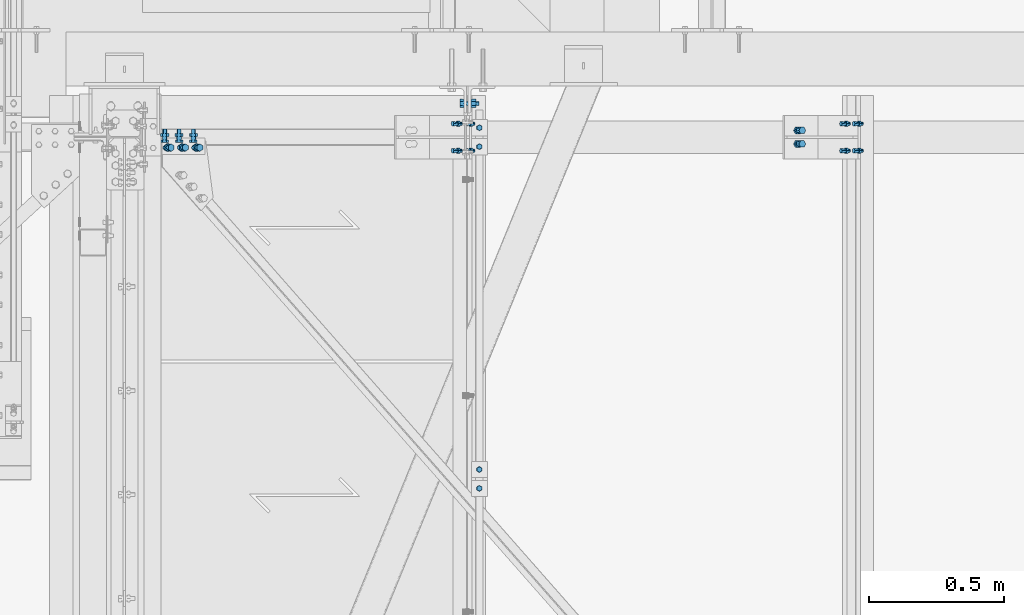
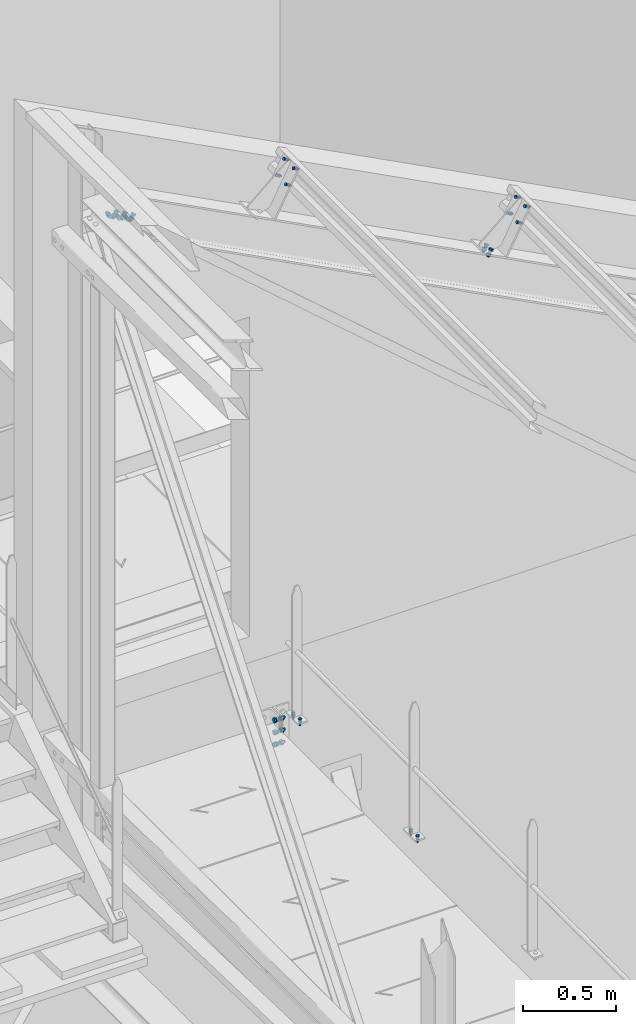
# One storey, part 158 of 362: 8 mechanical fasteners.
"""IFC2X3 building model written with IfcOpenShell, lengths in millimetres."""

from ifc_helpers import new_model, si_unit, frame, frame_2d, origin_with_axes, origin_2d_with_axis, place, context, subcontext, project, spatial, polyline, circle_curve, parameter, trimmed, segment, composite_curve, circle, outline, extrude, source, transform, mapped, material, type_object, element, save


model = new_model("IFC2X3")

# Units and contexts
model_context = context("Model", 3, precision=1e-05, world=origin_with_axes())
body_context = subcontext(model_context, "Body", "Model", "MODEL_VIEW")
ifc_project = project(units=[si_unit("LENGTHUNIT", "METRE", prefix="MILLI"), si_unit("AREAUNIT", "SQUARE_METRE"), si_unit("VOLUMEUNIT", "CUBIC_METRE"), si_unit("MASSUNIT", "GRAM", prefix="KILO"), si_unit("TIMEUNIT", "SECOND"), si_unit("PLANEANGLEUNIT", "RADIAN"), si_unit("SOLIDANGLEUNIT", "STERADIAN"), si_unit("THERMODYNAMICTEMPERATUREUNIT", "DEGREE_CELSIUS"), si_unit("LUMINOUSINTENSITYUNIT", "LUMEN")], contexts=[model_context])

# Site, building, storey
site_placement = place(None, origin_with_axes())
site = spatial("IfcSite", under=ifc_project, at=site_placement, Name="Undefined", CompositionType="ELEMENT")
building_placement = place(site_placement, origin_with_axes())
building = spatial("IfcBuilding", under=site, at=building_placement, Name="Undefined", CompositionType="ELEMENT")
storey_placement = place(building_placement, origin_with_axes())
storey = spatial("IfcBuildingStorey", under=building, at=storey_placement, Name="Undefined", CompositionType="ELEMENT", Elevation=0.0)

# Mechanical fasteners
ifc_material_1 = material(Name="#_SB-8.8-ZINGUE")
mechanical_fastener_type = type_object("IfcMechanicalFastenerType", Name="Bolt assembly")
shared_shape_1 = source(origin_with_axes(), body_context, "Body", "SweptSolid", [
    extrude(circle(Radius=9.0, at=origin_2d_with_axis()), frame((0.0, 0.1, 0.0), z_axis=(0.0, 1.0, 0.0), x_axis=(1.0, 0.0, 0.0)), (0.0, 0.0, 1.0), 6.0),
    extrude(circle(Radius=9.0, at=origin_2d_with_axis()), frame((0.0, 5.90002706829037, 0.0), z_axis=(0.0, 1.0, 0.0), x_axis=(1.0, 0.0, 0.0)), (0.0, 0.0, 1.0), 6.1),
    extrude(outline(polyline([(13.85640646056, 0.0), (6.92820323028, 12.0000000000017), (-6.92820323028, 12.0000000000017), (-13.85640646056, 0.0), (-6.92820323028, -12.0000000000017), (6.92820323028, -12.0000000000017), (13.85640646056, 0.0)])), frame((0.0, -10.5600019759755, 0.0), z_axis=(0.0, 1.0, 0.0), x_axis=(1.0, 0.0, 0.0)), (0.0, 0.0, 1.0), 10.56),
    extrude(circle(Radius=8.0, at=origin_2d_with_axis()), frame((0.0, 0.0, 0.0), z_axis=(0.0, 1.0, 0.0), x_axis=(1.0, 0.0, 0.0)), (0.0, 0.0, 1.0), 40.0),
    extrude(outline(polyline([(15.3344231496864, 0.0), (7.6672115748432, 13.2800000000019), (-7.6672115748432, 13.2800000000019), (-15.3344231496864, 0.0), (-7.6672115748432, -13.2800000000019), (7.6672115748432, -13.2800000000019), (15.3344231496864, 0.0)])), frame((0.0, 12.0000270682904, 0.0), z_axis=(0.0, 1.0, 0.0), x_axis=(1.0, 0.0, 0.0)), (0.0, 0.0, 1.0), 10.56),
])
mechanical_fastener_1_placement = place(storey_placement, frame((12901.5227165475, 15161.5001062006, 11955.3075528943), z_axis=(-0.886082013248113, 9.38091927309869e-07, 0.463528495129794), x_axis=(0.0, 1.0, 0.0)))
element("IfcMechanicalFastener", 1, at=mechanical_fastener_1_placement, inside=storey, type_object=mechanical_fastener_type, material=ifc_material_1, Name="Bolt assembly", NominalDiameter=16.0, NominalLength=40.0, context=body_context, shape_type="MappedRepresentation", body=[
    mapped(shared_shape_1, transform((0.0, 0.0, -60.0))),
    mapped(shared_shape_1, transform((0.0, 0.0, 0.0))),
    mapped(shared_shape_1, transform((0.0, 0.0, 60.0))),
])
ifc_material_2 = material(Name="8.8-SB-ZINGUE")
shared_shape_2 = source(origin_with_axes(), body_context, "Body", "SweptSolid", [
    extrude(circle(Radius=7.0, at=origin_2d_with_axis()), frame((0.0, -10.0000010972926, 0.0), z_axis=(0.0, 1.0, 0.0), x_axis=(1.0, 0.0, 0.0)), (0.0, 0.0, 1.0), 10.1),
    extrude(outline(polyline([(10.39230484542, 0.0), (5.19615242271, 9.00000000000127), (-5.19615242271, 9.00000000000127), (-10.39230484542, 0.0), (-5.19615242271, -9.00000000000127), (5.19615242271, -9.00000000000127), (10.39230484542, 0.0)])), frame((0.0, -17.92, 0.0), z_axis=(0.0, 1.0, 0.0), x_axis=(1.0, 0.0, 0.0)), (0.0, 0.0, 1.0), 7.92),
    extrude(circle(Radius=6.0, at=origin_2d_with_axis()), frame((0.0, -10.0000010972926, 0.0), z_axis=(0.0, 1.0, 0.0), x_axis=(1.0, 0.0, 0.0)), (0.0, 0.0, 1.0), 40.0),
    extrude(outline(polyline([(11.5008173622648, 0.0), (5.7504086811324, 9.96000000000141), (-5.7504086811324, 9.96000000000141), (-11.5008173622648, 0.0), (-5.7504086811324, -9.96000000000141), (5.7504086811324, -9.96000000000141), (11.5008173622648, 0.0)])), frame((0.0, 0.0, 0.0), z_axis=(0.0, 1.0, 0.0), x_axis=(1.0, 0.0, 0.0)), (0.0, 0.0, 1.0), 7.92),
])
for number, where, z_axis, x_axis, name in (
    (2, (13993.9998935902, 15165.0000000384, 8239.99999649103), (-1.0, 0.0, 0.0), (0.0, 1.0, 0.0), "Bolt assembly"),
    (3, (13993.9998926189, 13900.0034471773, 8239.99999745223), (-1.0, 0.0, 0.0), (0.0, 1.0, 0.0), "Bolt assembly"),
):
    element("IfcMechanicalFastener", number, at=place(storey_placement, frame(where, z_axis=z_axis, x_axis=x_axis)), inside=storey, type_object=mechanical_fastener_type, material=ifc_material_2, Name=name, NominalDiameter=12.0, NominalLength=40.0, context=body_context, shape_type="MappedRepresentation", body=[
        mapped(shared_shape_2, transform((0.0, 0.0, 0.0))),
        mapped(shared_shape_2, transform((70.0, -2.91038304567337e-11, 2.18278728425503e-10))),
    ])
shared_shape_3 = source(origin_with_axes(), body_context, "Body", "SweptSolid", [
    extrude(circle(Radius=7.0, at=origin_2d_with_axis()), frame((0.0, -0.10007666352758, 0.0), z_axis=(0.0, 1.0, 0.0), x_axis=(1.0, 0.0, 0.0)), (0.0, 0.0, 1.0), 1.6),
    extrude(circle(Radius=7.0, at=origin_2d_with_axis()), frame((0.0, -9.9, 0.0), z_axis=(0.0, 1.0, 0.0), x_axis=(1.0, 0.0, 0.0)), (0.0, 0.0, 1.0), 10.0),
    extrude(outline(polyline([(10.39230484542, 0.0), (5.19615242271, 9.00000000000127), (-5.19615242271, 9.00000000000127), (-10.39230484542, 0.0), (-5.19615242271, -9.00000000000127), (5.19615242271, -9.00000000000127), (10.39230484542, 0.0)])), frame((0.0, -17.92, 0.0), z_axis=(0.0, 1.0, 0.0), x_axis=(1.0, 0.0, 0.0)), (0.0, 0.0, 1.0), 7.92),
    extrude(circle(Radius=6.0, at=origin_2d_with_axis()), frame((0.0, -10.0000010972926, 0.0), z_axis=(0.0, 1.0, 0.0), x_axis=(1.0, 0.0, 0.0)), (0.0, 0.0, 1.0), 30.0),
    extrude(outline(polyline([(11.5008173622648, 0.0), (5.7504086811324, 9.96000000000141), (-5.7504086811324, 9.96000000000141), (-11.5008173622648, 0.0), (-5.7504086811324, -9.96000000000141), (5.7504086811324, -9.96000000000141), (11.5008173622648, 0.0)])), frame((0.0, 1.49996853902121, 0.0), z_axis=(0.0, 1.0, 0.0), x_axis=(1.0, 0.0, 0.0)), (0.0, 0.0, 1.0), 7.92),
])
for number, where, z_axis, x_axis, name in (
    (4, (13910.5352247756, 15200.0000596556, 11798.7689104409), (0.0, 1.0, 0.0), (0.463528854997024, 6.99999093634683e-09, 0.886081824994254), "Bolt assembly"),
    (5, (15347.8352673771, 15200.0000596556, 11046.8866202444), (0.0, 1.0, 0.0), (0.463528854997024, 6.99999093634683e-09, 0.886081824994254), "Bolt assembly"),
):
    element("IfcMechanicalFastener", number, at=place(storey_placement, frame(where, z_axis=z_axis, x_axis=x_axis)), inside=storey, type_object=mechanical_fastener_type, material=ifc_material_2, Name=name, NominalDiameter=12.0, NominalLength=30.0, context=body_context, shape_type="MappedRepresentation", body=[
        mapped(shared_shape_3, transform((0.0, 0.0, -50.0))),
        mapped(shared_shape_3, transform((102.00000000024, -2.51020537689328e-10, -50.0))),
        mapped(shared_shape_3, transform((0.0, 0.0, 50.0))),
        mapped(shared_shape_3, transform((102.00000000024, -2.51020537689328e-10, 50.0))),
    ])
shared_shape_4 = source(origin_with_axes(), body_context, "Body", "SweptSolid", [
    extrude(circle(Radius=9.0, at=origin_2d_with_axis()), frame((0.0, -0.100011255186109, 0.0), z_axis=(0.0, 1.0, 0.0), x_axis=(1.0, 0.0, 0.0)), (0.0, 0.0, 1.0), 9.9),
    extrude(circle(Radius=9.0, at=origin_2d_with_axis()), frame((0.0, -9.9, 0.0), z_axis=(0.0, 1.0, 0.0), x_axis=(1.0, 0.0, 0.0)), (0.0, 0.0, 1.0), 10.0),
    extrude(outline(polyline([(13.85640646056, 0.0), (6.92820323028, 12.0000000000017), (-6.92820323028, 12.0000000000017), (-13.85640646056, 0.0), (-6.92820323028, -12.0000000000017), (6.92820323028, -12.0000000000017), (13.85640646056, 0.0)])), frame((0.0, -20.5600000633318, 0.0), z_axis=(0.0, 1.0, 0.0), x_axis=(1.0, 0.0, 0.0)), (0.0, 0.0, 1.0), 10.56),
    extrude(circle(Radius=8.0, at=origin_2d_with_axis()), frame((0.0, -10.0000010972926, 0.0), z_axis=(0.0, 1.0, 0.0), x_axis=(1.0, 0.0, 0.0)), (0.0, 0.0, 1.0), 40.0),
    extrude(outline(polyline([(15.3344231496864, 0.0), (7.6672115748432, 13.2800000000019), (-7.6672115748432, 13.2800000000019), (-15.3344231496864, 0.0), (-7.6672115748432, -13.2800000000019), (7.6672115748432, -13.2800000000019), (15.3344231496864, 0.0)])), frame((0.0, 9.80000019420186, 0.0), z_axis=(0.0, 1.0, 0.0), x_axis=(1.0, 0.0, 0.0)), (0.0, 0.0, 1.0), 10.56),
])
mechanical_fastener_2_placement = place(storey_placement, frame((15180.0712405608, 15200.0000375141, 10898.7777524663), z_axis=(0.0, 1.0, 0.0), x_axis=(0.886081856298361, 3.500000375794e-08, -0.463528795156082)))
element("IfcMechanicalFastener", 6, at=mechanical_fastener_2_placement, inside=storey, type_object=mechanical_fastener_type, material=ifc_material_2, Name="Bolt assembly", NominalDiameter=16.0, NominalLength=40.0, context=body_context, shape_type="MappedRepresentation", body=[
    mapped(shared_shape_4, transform((0.0, 0.0, -25.0))),
    mapped(shared_shape_4, transform((0.0, 0.0, 25.0))),
])
shared_shape_5 = source(origin_with_axes(), body_context, "Body", "SweptSolid", [
    extrude(circle(Radius=9.0, at=origin_2d_with_axis()), frame((0.0, -3.20005376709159, 0.0), z_axis=(0.0, 1.0, 0.0), x_axis=(1.0, 0.0, 0.0)), (0.0, 0.0, 1.0), 6.3),
    extrude(circle(Radius=9.0, at=origin_2d_with_axis()), frame((0.0, -9.39989811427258, 0.0), z_axis=(0.0, 1.0, 0.0), x_axis=(1.0, 0.0, 0.0)), (0.0, 0.0, 1.0), 6.0),
    extrude(outline(polyline([(13.85640646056, 0.0), (6.92820323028, 12.0000000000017), (-6.92820323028, 12.0000000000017), (-13.85640646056, 0.0), (-6.92820323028, -12.0000000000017), (6.92820323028, -12.0000000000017), (13.85640646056, 0.0)])), frame((0.0, -20.0598981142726, 0.0), z_axis=(0.0, 1.0, 0.0), x_axis=(1.0, 0.0, 0.0)), (0.0, 0.0, 1.0), 10.56),
    extrude(circle(Radius=8.0, at=origin_2d_with_axis()), frame((0.0, -9.49989811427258, 0.0), z_axis=(0.0, 1.0, 0.0), x_axis=(1.0, 0.0, 0.0)), (0.0, 0.0, 1.0), 40.0),
    extrude(outline(polyline([(15.3344231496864, 0.0), (7.6672115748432, 13.2800000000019), (-7.6672115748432, 13.2800000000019), (-15.3344231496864, 0.0), (-7.6672115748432, -13.2800000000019), (7.6672115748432, -13.2800000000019), (15.3344231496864, 0.0)])), frame((0.0, 3.09994604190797, 0.0), z_axis=(0.0, 1.0, 0.0), x_axis=(1.0, 0.0, 0.0)), (0.0, 0.0, 1.0), 10.56),
])
mechanical_fastener_3_placement = place(storey_placement, frame((12882.5180082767, 15200.0000064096, 11918.9781732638), z_axis=(-0.886081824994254, 0.0, 0.463528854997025), x_axis=(0.463528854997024, 6.99999093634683e-09, 0.886081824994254)))
element("IfcMechanicalFastener", 7, at=mechanical_fastener_3_placement, inside=storey, type_object=mechanical_fastener_type, material=ifc_material_1, Name="Bolt assembly", NominalDiameter=16.0, NominalLength=40.0, context=body_context, shape_type="MappedRepresentation", body=[
    mapped(shared_shape_5, transform((0.0, 0.0, -60.0))),
    mapped(shared_shape_5, transform((0.0, 0.0, 0.0))),
    mapped(shared_shape_5, transform((0.0, 0.0, 60.0))),
])
ifc_material_3 = material(Name="HR10.9")
shared_shape_6 = source(origin_with_axes(), body_context, "Body", "SweptSolid", [
    extrude(outline(composite_curve([segment(polyline([(-9.0, 9.0), (9.0, 9.0)]), True, "CONTINUOUS"), segment(trimmed(circle_curve(frame_2d((9.0, 0.0), x_axis=(0.0, 1.0)), 9.0), [parameter(0.0)], [parameter(3.14159265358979)], False, "PARAMETER"), True, "CONTINUOUS"), segment(polyline([(9.0, -9.0), (-9.0, -9.0)]), True, "CONTINUOUS"), segment(trimmed(circle_curve(frame_2d((-9.0, 0.0), x_axis=(0.0, -1.0)), 9.0), [parameter(0.0)], [parameter(3.14159265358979)], False, "PARAMETER"), True, "DISCONTINUOUS")], self_intersect=False)), frame((0.0, -14.899999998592, 0.0), z_axis=(0.0, 1.0, 0.0), x_axis=(1.0, 0.0, 0.0)), (0.0, 0.0, 1.0), 10.0),
    extrude(circle(Radius=9.0, at=origin_2d_with_axis()), frame((0.0, 0.899999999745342, 0.0), z_axis=(0.0, 1.0, 0.0), x_axis=(1.0, 0.0, 0.0)), (0.0, 0.0, 1.0), 10.1),
    extrude(outline(polyline([(15.58845726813, 0.0), (7.794228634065, 13.5000000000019), (-7.794228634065, 13.5000000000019), (-15.58845726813, 0.0), (-7.794228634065, -13.5000000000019), (7.794228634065, -13.5000000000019), (15.58845726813, 0.0)])), frame((0.0, -29.0, 0.0), z_axis=(0.0, 1.0, 0.0), x_axis=(1.0, 0.0, 0.0)), (0.0, 0.0, 1.0), 10.0),
    extrude(circle(Radius=8.0, at=origin_2d_with_axis()), frame((0.0, -18.9999974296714, 0.0), z_axis=(0.0, 1.0, 0.0), x_axis=(1.0, 0.0, 0.0)), (0.0, 0.0, 1.0), 60.0),
    extrude(circle(Radius=15.0, at=origin_2d_with_axis()), frame((0.0, -18.9999974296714, 0.0), z_axis=(0.0, 1.0, 0.0), x_axis=(1.0, 0.0, 0.0)), (0.0, 0.0, 1.0), 4.0),
    extrude(circle(Radius=15.0, at=origin_2d_with_axis()), frame((0.0, 11.0000000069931, 0.0), z_axis=(0.0, 1.0, 0.0), x_axis=(1.0, 0.0, 0.0)), (0.0, 0.0, 1.0), 4.0),
    extrude(outline(polyline([(15.58845726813, 0.0), (7.794228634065, 13.5000000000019), (-7.794228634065, 13.5000000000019), (-15.58845726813, 0.0), (-7.794228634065, -13.5000000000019), (7.794228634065, -13.5000000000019), (15.58845726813, 0.0)])), frame((0.0, 15.0000000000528, 0.0), z_axis=(0.0, 1.0, 0.0), x_axis=(1.0, 0.0, 0.0)), (0.0, 0.0, 1.0), 15.0),
])
mechanical_fastener_4_placement = place(storey_placement, frame((13951.4998855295, 15324.9999999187, 8090.00437165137), z_axis=(0.0, 0.0, -1.0), x_axis=(0.0, 1.0, 0.0)))
element("IfcMechanicalFastener", 8, at=mechanical_fastener_4_placement, inside=storey, type_object=mechanical_fastener_type, material=ifc_material_3, Name="Bolt assembly", NominalDiameter=16.0, NominalLength=60.0, context=body_context, shape_type="MappedRepresentation", body=[
    mapped(shared_shape_6, transform((0.0, 0.0, -80.0))),
    mapped(shared_shape_6, transform((0.0, 0.0, 0.0))),
    mapped(shared_shape_6, transform((0.0, 0.0, 80.0))),
])

save(model, "model.ifc")
